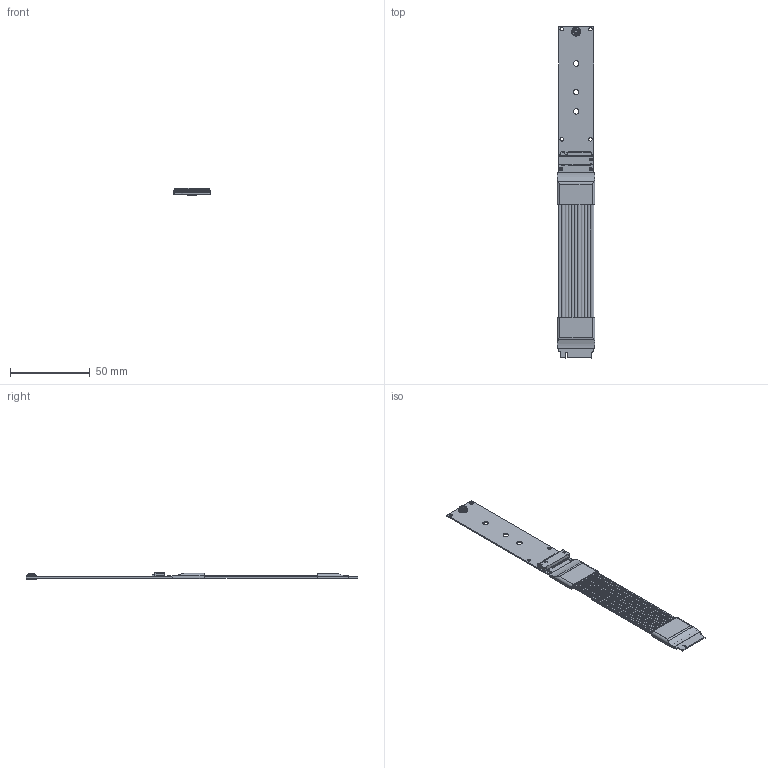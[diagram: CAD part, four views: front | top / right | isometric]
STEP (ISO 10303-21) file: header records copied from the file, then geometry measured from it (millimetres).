
FILE_DESCRIPTION(('Open CASCADE Model'),'2;1');
FILE_NAME('Open CASCADE Shape Model','2025-07-08T16:27:59',('Author'),( 'Open CASCADE'),'Open CASCADE STEP processor 7.5','Open CASCADE 7.5' ,'Unknown');
FILE_SCHEMA(('AUTOMOTIVE_DESIGN { 1 0 10303 214 1 1 1 1 }'));
Length unit declared in the file: millimetre
Products named in the file (254): PCB; Board; Open CASCADE STEP translator 7.5 1.1.1; Designator59; C0603_060; CN1; c-1-2199119-3-a1-3d.stp; Designator58; Designator57; LED AP1608; Designator46; 0603_RES; Capsule; Encapsulation; TopCover; Free-Models; K44SH 20P ֱ¿잲0250423; K44SH 24P ֱ¿잲0250423; R4S HST 20220711_RGB4408131; G0030_RGB12967653; G0042; M2 nuc_RGB3326705
Assembly tree (260 placements, depth 4):
  PCB
    Board
      Open CASCADE STEP translator 7.5 1.1.1
    Designator59
      C0603_060
      C0603_060
      C0603_060
    CN1
      c-1-2199119-3-a1-3d.stp  x2
      c-1-2199119-3-a1-3d.stp
    Designator58
      C0603_060
      C0603_060
      C0603_060
    Designator57
      LED AP1608
    Designator46
      0603_RES
        Capsule
        Encapsulation  x2
        TopCover
    Free-Models
      K44SH 20P ֱ¿잲0250423
      K44SH 20P ֱ¿잲0250423
      K44SH 20P ֱ¿잲0250423
      K44SH 20P ֱ¿잲0250423
      K44SH 20P ֱ¿잲0250423
      K44SH 20P ֱ¿잲0250423
      K44SH 20P ֱ¿잲0250423
      K44SH 20P ֱ¿잲0250423
      K44SH 20P ֱ¿잲0250423
      K44SH 20P ֱ¿잲0250423
      K44SH 20P ֱ¿잲0250423
      K44SH 20P ֱ¿잲0250423
      K44SH 20P ֱ¿잲0250423
      K44SH 20P ֱ¿잲0250423
      K44SH 20P ֱ¿잲0250423
      K44SH 20P ֱ¿잲0250423
      K44SH 20P ֱ¿잲0250423
      K44SH 20P ֱ¿잲0250423
      K44SH 20P ֱ¿잲0250423
      K44SH 20P ֱ¿잲0250423
      K44SH 20P ֱ¿잲0250423
      K44SH 20P ֱ¿잲0250423
      K44SH 20P ֱ¿잲0250423
      K44SH 20P ֱ¿잲0250423
      K44SH 20P ֱ¿잲0250423
      K44SH 20P ֱ¿잲0250423
      K44SH 20P ֱ¿잲0250423
      K44SH 20P ֱ¿잲0250423
      K44SH 20P ֱ¿잲0250423
      K44SH 20P ֱ¿잲0250423
      K44SH 20P ֱ¿잲0250423
      K44SH 20P ֱ¿잲0250423
      K44SH 20P ֱ¿잲0250423
      K44SH 20P ֱ¿잲0250423
      K44SH 20P ֱ¿잲0250423
      K44SH 20P ֱ¿잲0250423
      K44SH 20P ֱ¿잲0250423
      K44SH 20P ֱ¿잲0250423
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Bounding box: 23.67 x 208.09 x 4.99 mm (x, y, z)
Volume: 5651.5 mm3; surface area: 32998.1 mm2
Topology: 256 solids, 256 shells, 6373 faces, 16540 edges, 10918 vertices
Faces by surface type: plane 4477, cylinder 1555, bspline 280, extrusion 22, cone 17, sphere 16, torus 6
Full cylindrical faces by diameter (mm): 0.2 x132, 0.254 x176, 0.63 x44, 1.05 x2, 1.1 x1, 1.6 x1, 2 x1, 2.2 x4, 3.2 x3, 3.3 x3, 3.4 x5, 4.1 x1, 5 x1, 5.76 x2
Entity records: 194913 total; most frequent: CARTESIAN_POINT 37941, ORIENTED_EDGE 23592, DIRECTION 22650, EDGE_CURVE 11796, VECTOR 8560, LINE 8538, VERTEX_POINT 7781, AXIS2_PLACEMENT_3D 7045
